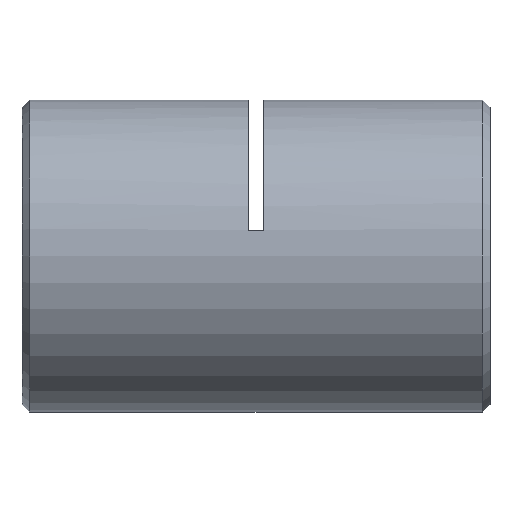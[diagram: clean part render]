
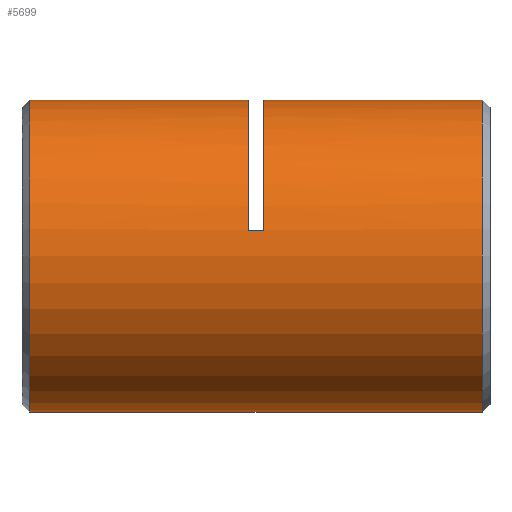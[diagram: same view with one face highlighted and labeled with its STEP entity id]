
A CAD part, left-side view. The second image highlights one B-rep face of the part: STEP entity #5699.
In plain terms, the highlighted cylindrical face has radius 10 mm (diameter 20 mm), a partial arc.
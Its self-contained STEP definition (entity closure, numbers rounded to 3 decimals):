
#101 = DIRECTION ( 'NONE',  ( 0., 0., 1. ) ) ;
#152 = AXIS2_PLACEMENT_3D ( 'NONE', #700, #1611, #2062 ) ;
#193 = AXIS2_PLACEMENT_3D ( 'NONE', #5738, #370, #2220 ) ;
#226 = AXIS2_PLACEMENT_3D ( 'NONE', #3335, #2884, #101 ) ;
#280 = CARTESIAN_POINT ( 'NONE',  ( 0., 29.75, 10. ) ) ;
#345 = CARTESIAN_POINT ( 'NONE',  ( 0., 0.75, 10. ) ) ;
#370 = DIRECTION ( 'NONE',  ( 0., 1., 0. ) ) ;
#385 = EDGE_CURVE ( 'NONE', #2469, #854, #1573, .T. ) ;
#410 = EDGE_CURVE ( 'NONE', #3355, #854, #3483, .T. ) ;
#443 = VECTOR ( 'NONE', #1343, 1000. ) ;
#451 = VERTEX_POINT ( 'NONE', #2782 ) ;
#479 = LINE ( 'NONE', #1467, #1472 ) ;
#661 = DIRECTION ( 'NONE',  ( 0., 1., 0. ) ) ;
#700 = CARTESIAN_POINT ( 'NONE',  ( 0., 0., 0. ) ) ;
#764 = CARTESIAN_POINT ( 'NONE',  ( -9.86, 15.75, 1.667 ) ) ;
#854 = VERTEX_POINT ( 'NONE', #4380 ) ;
#1072 = FACE_OUTER_BOUND ( 'NONE', #5597, .T. ) ;
#1179 = LINE ( 'NONE', #4162, #2542 ) ;
#1343 = DIRECTION ( 'NONE',  ( 0., 1., 0. ) ) ;
#1467 = CARTESIAN_POINT ( 'NONE',  ( 0., 0., 10. ) ) ;
#1472 = VECTOR ( 'NONE', #2326, 1000. ) ;
#1573 = LINE ( 'NONE', #1794, #443 ) ;
#1584 = CARTESIAN_POINT ( 'NONE',  ( 0., 0.75, -10. ) ) ;
#1611 = DIRECTION ( 'NONE',  ( 0., 1., 0. ) ) ;
#1665 = ORIENTED_EDGE ( 'NONE', *, *, #3695, .T. ) ;
#1762 = DIRECTION ( 'NONE',  ( 0., 0., -1. ) ) ;
#1780 = DIRECTION ( 'NONE',  ( 0., -1., 0. ) ) ;
#1794 = CARTESIAN_POINT ( 'NONE',  ( 0., 0., -10. ) ) ;
#2062 = DIRECTION ( 'NONE',  ( 0., 0., 1. ) ) ;
#2146 = CARTESIAN_POINT ( 'NONE',  ( 0., 14.75, 10. ) ) ;
#2220 = DIRECTION ( 'NONE',  ( 0., 0., 1. ) ) ;
#2222 = EDGE_CURVE ( 'NONE', #4541, #3355, #1179, .T. ) ;
#2251 = ORIENTED_EDGE ( 'NONE', *, *, #385, .F. ) ;
#2257 = EDGE_CURVE ( 'NONE', #3170, #5439, #479, .T. ) ;
#2326 = DIRECTION ( 'NONE',  ( 0., 1., 0. ) ) ;
#2469 = VERTEX_POINT ( 'NONE', #1584 ) ;
#2487 = DIRECTION ( 'NONE',  ( 0., 1., 0. ) ) ;
#2542 = VECTOR ( 'NONE', #4579, 1000. ) ;
#2543 = EDGE_CURVE ( 'NONE', #451, #5335, #3039, .T. ) ;
#2549 = CARTESIAN_POINT ( 'NONE',  ( -9.86, 15.25, 1.667 ) ) ;
#2782 = CARTESIAN_POINT ( 'NONE',  ( -9.86, 14.75, 1.667 ) ) ;
#2820 = VECTOR ( 'NONE', #2487, 1000. ) ;
#2884 = DIRECTION ( 'NONE',  ( 0., 1., 0. ) ) ;
#3036 = DIRECTION ( 'NONE',  ( 0., 0., 1. ) ) ;
#3039 = LINE ( 'NONE', #2549, #2820 ) ;
#3103 = ORIENTED_EDGE ( 'NONE', *, *, #2222, .T. ) ;
#3170 = VERTEX_POINT ( 'NONE', #345 ) ;
#3184 = ORIENTED_EDGE ( 'NONE', *, *, #2257, .T. ) ;
#3223 = ORIENTED_EDGE ( 'NONE', *, *, #4926, .T. ) ;
#3335 = CARTESIAN_POINT ( 'NONE',  ( 0., 14.75, 0. ) ) ;
#3355 = VERTEX_POINT ( 'NONE', #280 ) ;
#3483 = CIRCLE ( 'NONE', #4495, 10. ) ;
#3487 = ORIENTED_EDGE ( 'NONE', *, *, #2543, .T. ) ;
#3695 = EDGE_CURVE ( 'NONE', #5335, #4541, #4629, .T. ) ;
#3764 = CIRCLE ( 'NONE', #193, 10. ) ;
#4040 = EDGE_CURVE ( 'NONE', #451, #5439, #4491, .T. ) ;
#4119 = CARTESIAN_POINT ( 'NONE',  ( 0., 15.75, 10. ) ) ;
#4162 = CARTESIAN_POINT ( 'NONE',  ( 0., 0., 10. ) ) ;
#4264 = ORIENTED_EDGE ( 'NONE', *, *, #410, .T. ) ;
#4380 = CARTESIAN_POINT ( 'NONE',  ( 0., 29.75, -10. ) ) ;
#4491 = CIRCLE ( 'NONE', #226, 10. ) ;
#4495 = AXIS2_PLACEMENT_3D ( 'NONE', #4524, #1780, #1762 ) ;
#4524 = CARTESIAN_POINT ( 'NONE',  ( 0., 29.75, 0. ) ) ;
#4541 = VERTEX_POINT ( 'NONE', #4119 ) ;
#4579 = DIRECTION ( 'NONE',  ( 0., 1., 0. ) ) ;
#4629 = CIRCLE ( 'NONE', #5620, 10. ) ;
#4851 = CARTESIAN_POINT ( 'NONE',  ( 0., 15.75, 0. ) ) ;
#4926 = EDGE_CURVE ( 'NONE', #2469, #3170, #3764, .T. ) ;
#5304 = ORIENTED_EDGE ( 'NONE', *, *, #4040, .F. ) ;
#5335 = VERTEX_POINT ( 'NONE', #764 ) ;
#5431 = CYLINDRICAL_SURFACE ( 'NONE', #152, 10. ) ;
#5439 = VERTEX_POINT ( 'NONE', #2146 ) ;
#5597 = EDGE_LOOP ( 'NONE', ( #2251, #3223, #3184, #5304, #3487, #1665, #3103, #4264 ) ) ;
#5620 = AXIS2_PLACEMENT_3D ( 'NONE', #4851, #661, #3036 ) ;
#5699 = ADVANCED_FACE ( 'NONE', ( #1072 ), #5431, .T. ) ;
#5738 = CARTESIAN_POINT ( 'NONE',  ( 0., 0.75, 0. ) ) ;
